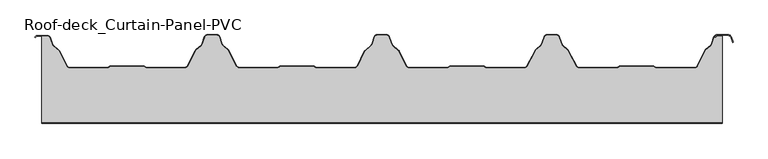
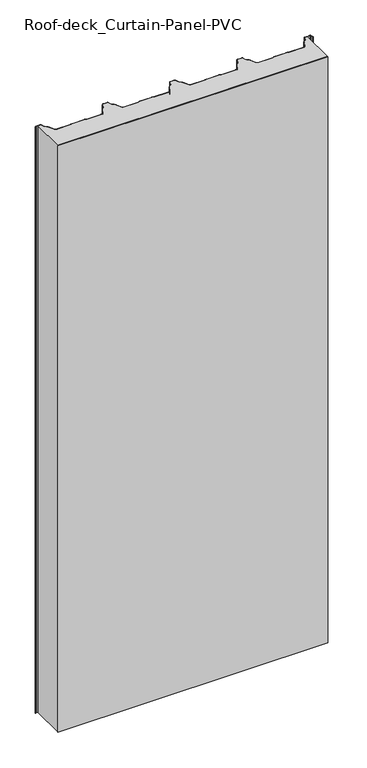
"""IFC4 building model written with IfcOpenShell, lengths in millimetres: plate geometry, Roof-deck_Curtain-Panel-PVC : ACH_Roof deck_MW_80 mm."""

from ifc_helpers import new_model, si_unit, point, frame_2d, origin, origin_with_axes, place, context, project, spatial, polyline, circle_curve, trimmed, segment, composite_curve, outline, extrude, source, transform, mapped, element, save


def roof_deck_curtain_panel_pvc_6be13019(model_context):
    return source(origin(), model_context, "Body", "SweptSolid", [
        extrude(outline(composite_curve([segment(polyline([(-349.0135941, -47.2718753), (-348.3934384, -47.892031)]), True, "CONTINUOUS"), segment(trimmed(circle_curve(frame_2d((-346.2014073, -45.7)), 3.1), [point((-348.3934384, -47.892031))], [point((-346.2014073, -48.8))], True, "CARTESIAN"), True, "CONTINUOUS"), segment(polyline([(-346.2014073, -48.8), (-289.4061861, -48.8)]), True, "CONTINUOUS"), segment(trimmed(circle_curve(frame_2d((-289.4061861, -44.5)), 4.3), [point((-289.4061861, -48.8))], [point((-285.5884085, -46.4785284))], True, "CARTESIAN"), True, "CONTINUOUS"), segment(polyline([(-285.5884085, -46.4785284), (-273.6825876, -23.505001)]), True, "CONTINUOUS"), segment(trimmed(circle_curve(frame_2d((-271.1078074, -24.8393573)), 2.9), [point((-273.6825876, -23.505001))], [point((-273.017236, -22.6566795))], False, "CARTESIAN"), True, "CONTINUOUS"), segment(polyline([(-273.017236, -22.6566795), (-265.2497907, -15.8616403)]), True, "CONTINUOUS"), segment(trimmed(circle_curve(frame_2d((-267.290904, -13.5284329)), 3.1), [point((-265.2497907, -15.8616403))], [point((-264.3739053, -14.5777749))], True, "CARTESIAN"), True, "CONTINUOUS"), segment(polyline([(-264.3739053, -14.5777749), (-260.2266586, -3.0491088)]), True, "CONTINUOUS"), segment(trimmed(circle_curve(frame_2d((-257.0273697, -4.2)), 3.4), [point((-260.2266586, -3.0491088))], [point((-257.0273697, -0.8))], False, "CARTESIAN"), True, "CONTINUOUS"), segment(polyline([(-257.0273697, -0.8), (-242.6920972, -0.8)]), True, "CONTINUOUS"), segment(trimmed(circle_curve(frame_2d((-242.6920972, -4.2)), 3.4), [point((-242.6920972, -0.8))], [point((-239.4928083, -3.0491088))], False, "CARTESIAN"), True, "CONTINUOUS"), segment(polyline([(-239.4928083, -3.0491088), (-235.3455616, -14.5777749)]), True, "CONTINUOUS"), segment(trimmed(circle_curve(frame_2d((-232.4285629, -13.5284329)), 3.1), [point((-235.3455616, -14.5777749))], [point((-234.4696761, -15.8616403))], True, "CARTESIAN"), True, "CONTINUOUS"), segment(polyline([(-234.4696761, -15.8616403), (-226.7022309, -22.6566795)]), True, "CONTINUOUS"), segment(trimmed(circle_curve(frame_2d((-228.6116595, -24.8393573)), 2.9), [point((-226.7022309, -22.6566795))], [point((-226.0368792, -23.505001))], False, "CARTESIAN"), True, "CONTINUOUS"), segment(polyline([(-226.0368792, -23.505001), (-214.1310583, -46.4785284)]), True, "CONTINUOUS"), segment(trimmed(circle_curve(frame_2d((-210.3132808, -44.5)), 4.3), [point((-214.1310583, -46.4785284))], [point((-210.3132808, -48.8))], True, "CARTESIAN"), True, "CONTINUOUS"), segment(polyline([(-210.3132808, -48.8), (-153.5333867, -48.8)]), True, "CONTINUOUS"), segment(trimmed(circle_curve(frame_2d((-153.5333867, -45.7)), 3.1), [point((-153.5333867, -48.8))], [point((-151.3413557, -47.892031))], True, "CARTESIAN"), True, "CONTINUOUS"), segment(polyline([(-151.3413557, -47.892031), (-150.7212, -47.2718753)]), True, "CONTINUOUS"), segment(trimmed(circle_curve(frame_2d((-149.0481053, -50.0020238)), 3.2020238), [point((-150.7212, -47.2718753))], [point((-149.0481053, -46.8))], False, "CARTESIAN"), True, "CONTINUOUS"), segment(polyline([(-149.0481053, -46.8), (-101.2020159, -46.8)]), True, "CONTINUOUS"), segment(trimmed(circle_curve(frame_2d((-101.2020159, -50.0020238)), 3.2020238), [point((-101.2020159, -46.8))], [point((-99.5289212, -47.2718753))], False, "CARTESIAN"), True, "CONTINUOUS"), segment(polyline([(-99.5289212, -47.2718753), (-98.9087655, -47.892031)]), True, "CONTINUOUS"), segment(trimmed(circle_curve(frame_2d((-96.7167345, -45.7)), 3.1), [point((-98.9087655, -47.892031))], [point((-96.7167345, -48.8))], True, "CARTESIAN"), True, "CONTINUOUS"), segment(polyline([(-96.7167345, -48.8), (-39.9215133, -48.8)]), True, "CONTINUOUS"), segment(trimmed(circle_curve(frame_2d((-39.9215133, -44.5)), 4.3), [point((-39.9215133, -48.8))], [point((-36.0707148, -46.4134657))], True, "CARTESIAN"), True, "CONTINUOUS"), segment(polyline([(-36.0707148, -46.4134657), (-25.2060392, -24.5485969)]), True, "CONTINUOUS"), segment(trimmed(circle_curve(frame_2d((-22.6089891, -25.8390738)), 2.9), [point((-25.2060392, -24.5485969))], [point((-24.5354625, -23.6714252))], False, "CARTESIAN"), True, "CONTINUOUS"), segment(polyline([(-24.5354625, -23.6714252), (-15.7323582, -15.8477646)]), True, "CONTINUOUS"), segment(trimmed(circle_curve(frame_2d((-17.7916919, -13.530623)), 3.1), [point((-15.7323582, -15.8477646))], [point((-14.8746932, -14.579965))], True, "CARTESIAN"), True, "CONTINUOUS"), segment(polyline([(-14.8746932, -14.579965), (-10.7266586, -3.0491088)]), True, "CONTINUOUS"), segment(trimmed(circle_curve(frame_2d((-7.5273697, -4.2)), 3.4), [point((-10.7266586, -3.0491088))], [point((-7.5273697, -0.8))], False, "CARTESIAN"), True, "CONTINUOUS"), segment(polyline([(-7.5273697, -0.8), (6.8079028, -0.8)]), True, "CONTINUOUS"), segment(trimmed(circle_curve(frame_2d((6.8079028, -4.2)), 3.4), [point((6.8079028, -0.8))], [point((10.0071917, -3.0491088))], False, "CARTESIAN"), True, "CONTINUOUS"), segment(polyline([(10.0071917, -3.0491088), (14.1552263, -14.579965)]), True, "CONTINUOUS"), segment(trimmed(circle_curve(frame_2d((17.072225, -13.530623)), 3.1), [point((14.1552263, -14.579965))], [point((15.0128913, -15.8477646))], True, "CARTESIAN"), True, "CONTINUOUS"), segment(polyline([(15.0128913, -15.8477646), (23.8159956, -23.6714252)]), True, "CONTINUOUS"), segment(trimmed(circle_curve(frame_2d((21.8895222, -25.8390738)), 2.9), [point((23.8159956, -23.6714252))], [point((24.4865724, -24.5485969))], False, "CARTESIAN"), True, "CONTINUOUS"), segment(polyline([(24.4865724, -24.5485969), (35.3512479, -46.4134657)]), True, "CONTINUOUS"), segment(trimmed(circle_curve(frame_2d((39.2020464, -44.5)), 4.3), [point((35.3512479, -46.4134657))], [point((39.2020464, -48.8))], True, "CARTESIAN"), True, "CONTINUOUS"), segment(polyline([(39.2020464, -48.8), (95.9819404, -48.8)]), True, "CONTINUOUS"), segment(trimmed(circle_curve(frame_2d((95.9819404, -45.7)), 3.1), [point((95.9819404, -48.8))], [point((98.1739715, -47.892031))], True, "CARTESIAN"), True, "CONTINUOUS"), segment(polyline([(98.1739715, -47.892031), (98.7941272, -47.2718753)]), True, "CONTINUOUS"), segment(trimmed(circle_curve(frame_2d((100.4672218, -50.0020238)), 3.2020238), [point((98.7941272, -47.2718753))], [point((100.4672218, -46.8))], False, "CARTESIAN"), True, "CONTINUOUS"), segment(polyline([(100.4672218, -46.8), (148.3133113, -46.8)]), True, "CONTINUOUS"), segment(trimmed(circle_curve(frame_2d((148.3133113, -50.0020238)), 3.2020238), [point((148.3133113, -46.8))], [point((149.9864059, -47.2718753))], False, "CARTESIAN"), True, "CONTINUOUS"), segment(polyline([(149.9864059, -47.2718753), (150.6065616, -47.892031)]), True, "CONTINUOUS"), segment(trimmed(circle_curve(frame_2d((152.7985927, -45.7)), 3.1), [point((150.6065616, -47.892031))], [point((152.7985927, -48.8))], True, "CARTESIAN"), True, "CONTINUOUS"), segment(polyline([(152.7985927, -48.8), (209.5938139, -48.8)]), True, "CONTINUOUS"), segment(trimmed(circle_curve(frame_2d((209.5938139, -44.5)), 4.3), [point((209.5938139, -48.8))], [point((213.4115915, -46.4785284))], True, "CARTESIAN"), True, "CONTINUOUS"), segment(polyline([(213.4115915, -46.4785284), (225.3174124, -23.505001)]), True, "CONTINUOUS"), segment(trimmed(circle_curve(frame_2d((227.8921926, -24.8393573)), 2.9), [point((225.3174124, -23.505001))], [point((225.982764, -22.6566795))], False, "CARTESIAN"), True, "CONTINUOUS"), segment(polyline([(225.982764, -22.6566795), (233.7502093, -15.8616403)]), True, "CONTINUOUS"), segment(trimmed(circle_curve(frame_2d((231.709096, -13.5284329)), 3.1), [point((233.7502093, -15.8616403))], [point((234.6260947, -14.5777749))], True, "CARTESIAN"), True, "CONTINUOUS"), segment(polyline([(234.6260947, -14.5777749), (238.7733414, -3.0491088)]), True, "CONTINUOUS"), segment(trimmed(circle_curve(frame_2d((241.9726303, -4.2)), 3.4), [point((238.7733414, -3.0491088))], [point((241.9726303, -0.8))], False, "CARTESIAN"), True, "CONTINUOUS"), segment(polyline([(241.9726303, -0.8), (256.3079028, -0.8)]), True, "CONTINUOUS"), segment(trimmed(circle_curve(frame_2d((256.3079028, -4.2)), 3.4), [point((256.3079028, -0.8))], [point((259.5071917, -3.0491088))], False, "CARTESIAN"), True, "CONTINUOUS"), segment(polyline([(259.5071917, -3.0491088), (263.6544384, -14.5777749)]), True, "CONTINUOUS"), segment(trimmed(circle_curve(frame_2d((266.5714371, -13.5284329)), 3.1), [point((263.6544384, -14.5777749))], [point((264.5303239, -15.8616403))], True, "CARTESIAN"), True, "CONTINUOUS"), segment(polyline([(264.5303239, -15.8616403), (272.2977691, -22.6566795)]), True, "CONTINUOUS"), segment(trimmed(circle_curve(frame_2d((270.3883405, -24.8393573)), 2.9), [point((272.2977691, -22.6566795))], [point((272.9631208, -23.505001))], False, "CARTESIAN"), True, "CONTINUOUS"), segment(polyline([(272.9631208, -23.505001), (284.8689417, -46.4785284)]), True, "CONTINUOUS"), segment(trimmed(circle_curve(frame_2d((288.6867192, -44.5)), 4.3), [point((284.8689417, -46.4785284))], [point((288.6867192, -48.8))], True, "CARTESIAN"), True, "CONTINUOUS"), segment(polyline([(288.6867192, -48.8), (345.4666133, -48.8)]), True, "CONTINUOUS"), segment(trimmed(circle_curve(frame_2d((345.4666133, -45.7)), 3.1), [point((345.4666133, -48.8))], [point((347.6586443, -47.892031))], True, "CARTESIAN"), True, "CONTINUOUS"), segment(polyline([(347.6586443, -47.892031), (348.2788, -47.2718753)]), True, "CONTINUOUS"), segment(trimmed(circle_curve(frame_2d((349.9518947, -50.0020238)), 3.2020238), [point((348.2788, -47.2718753))], [point((349.9518947, -46.8))], False, "CARTESIAN"), True, "CONTINUOUS"), segment(polyline([(349.9518947, -46.8), (397.7979841, -46.8)]), True, "CONTINUOUS"), segment(trimmed(circle_curve(frame_2d((397.7979841, -50.0020238)), 3.2020238), [point((397.7979841, -46.8))], [point((399.4710788, -47.2718753))], False, "CARTESIAN"), True, "CONTINUOUS"), segment(polyline([(399.4710788, -47.2718753), (400.0912345, -47.892031)]), True, "CONTINUOUS"), segment(trimmed(circle_curve(frame_2d((402.2832655, -45.7)), 3.1), [point((400.0912345, -47.892031))], [point((402.2832655, -48.8))], True, "CARTESIAN"), True, "CONTINUOUS"), segment(polyline([(402.2832655, -48.8), (460.084234, -48.8)]), True, "CONTINUOUS"), segment(trimmed(circle_curve(frame_2d((460.084234, -44.5)), 4.3), [point((460.084234, -48.8))], [point((463.9685573, -46.3444599))], True, "CARTESIAN"), True, "CONTINUOUS"), segment(polyline([(463.9685573, -46.3444599), (474.7696963, -23.5979005)]), True, "CONTINUOUS"), segment(trimmed(circle_curve(frame_2d((477.3893563, -24.8418385)), 2.9), [point((474.7696963, -23.5979005))], [point((475.4799277, -22.6591607))], False, "CARTESIAN"), True, "CONTINUOUS"), segment(polyline([(475.4799277, -22.6591607), (483.2502093, -15.8616403)]), True, "CONTINUOUS"), segment(trimmed(circle_curve(frame_2d((481.209096, -13.5284329)), 3.1), [point((483.2502093, -15.8616403))], [point((484.1260947, -14.5777749))], True, "CARTESIAN"), True, "CONTINUOUS"), segment(polyline([(484.1260947, -14.5777749), (488.2177168, -3.2037362), (490.5677139, -4.0491088)]), True, "CONTINUOUS"), segment(trimmed(circle_curve(frame_2d((493.7670027, -5.2)), 3.4), [point((490.5677139, -4.0491088))], [point((493.7670027, -1.8))], False, "CARTESIAN"), True, "CONTINUOUS"), segment(polyline([(493.7670027, -1.8), (500.0, -1.8), (500.0, -128.8), (-500.0, -128.8), (-500.0, -1.8), (-491.8323638, -1.8)]), True, "CONTINUOUS"), segment(trimmed(circle_curve(frame_2d((-491.8323638, -5.2)), 3.4), [point((-491.8323638, -1.8))], [point((-488.6330749, -4.0491088))], False, "CARTESIAN"), True, "CONTINUOUS"), segment(polyline([(-488.6330749, -4.0491088), (-484.8455616, -14.5777749)]), True, "CONTINUOUS"), segment(trimmed(circle_curve(frame_2d((-481.9285629, -13.5284329)), 3.1), [point((-484.8455616, -14.5777749))], [point((-483.9696761, -15.8616403))], True, "CARTESIAN"), True, "CONTINUOUS"), segment(polyline([(-483.9696761, -15.8616403), (-475.3099327, -23.4372709)]), True, "CONTINUOUS"), segment(trimmed(circle_curve(frame_2d((-477.2193612, -25.6199488)), 2.9), [point((-475.3099327, -23.4372709))], [point((-474.6223111, -24.3294719))], False, "CARTESIAN"), True, "CONTINUOUS"), segment(polyline([(-474.6223111, -24.3294719), (-463.6487521, -46.4134657)]), True, "CONTINUOUS"), segment(trimmed(circle_curve(frame_2d((-459.7979536, -44.5)), 4.3), [point((-463.6487521, -46.4134657))], [point((-459.7979536, -48.8))], True, "CARTESIAN"), True, "CONTINUOUS"), segment(polyline([(-459.7979536, -48.8), (-403.0180596, -48.8)]), True, "CONTINUOUS"), segment(trimmed(circle_curve(frame_2d((-403.0180596, -45.7)), 3.1), [point((-403.0180596, -48.8))], [point((-400.8260285, -47.892031))], True, "CARTESIAN"), True, "CONTINUOUS"), segment(polyline([(-400.8260285, -47.892031), (-400.2058728, -47.2718753)]), True, "CONTINUOUS"), segment(trimmed(circle_curve(frame_2d((-398.5327782, -50.0020238)), 3.2020238), [point((-400.2058728, -47.2718753))], [point((-398.5327782, -46.8))], False, "CARTESIAN"), True, "CONTINUOUS"), segment(polyline([(-398.5327782, -46.8), (-350.6866887, -46.8)]), True, "CONTINUOUS"), segment(trimmed(circle_curve(frame_2d((-350.6866887, -50.0020238)), 3.2020238), [point((-350.6866887, -46.8))], [point((-349.0135941, -47.2718753))], False, "CARTESIAN"), True, "CONTINUOUS")], self_intersect=False)), origin_with_axes(), (0.0, 0.0, 1.0), 2300.0),
        extrude(outline(composite_curve([segment(polyline([(-506.1676362, -1.0), (-491.8323638, -1.0)]), True, "CONTINUOUS"), segment(trimmed(circle_curve(frame_2d((-491.8323638, -5.2)), 4.2), [point((-491.8323638, -1.0))], [point((-487.880301, -3.7783109))], False, "CARTESIAN"), True, "CONTINUOUS"), segment(polyline([(-487.880301, -3.7783109), (-484.0927877, -14.3069769)]), True, "CONTINUOUS"), segment(trimmed(circle_curve(frame_2d((-481.9285629, -13.5284329)), 2.3), [point((-484.0927877, -14.3069769))], [point((-483.4429372, -15.2595222))], True, "CARTESIAN"), True, "CONTINUOUS"), segment(polyline([(-483.4429372, -15.2595222), (-474.7831938, -22.8351529)]), True, "CONTINUOUS"), segment(trimmed(circle_curve(frame_2d((-477.2193612, -25.6199488)), 3.7), [point((-474.7831938, -22.8351529))], [point((-473.9058834, -23.9734783))], False, "CARTESIAN"), True, "CONTINUOUS"), segment(polyline([(-473.9058834, -23.9734783), (-462.9323245, -46.0574721)]), True, "CONTINUOUS"), segment(trimmed(circle_curve(frame_2d((-459.7979536, -44.5)), 3.5), [point((-462.9323245, -46.0574721))], [point((-459.7979536, -48.0))], True, "CARTESIAN"), True, "CONTINUOUS"), segment(polyline([(-459.7979536, -48.0), (-403.0180596, -48.0)]), True, "CONTINUOUS"), segment(trimmed(circle_curve(frame_2d((-403.0180596, -45.7)), 2.3), [point((-403.0180596, -48.0))], [point((-401.391714, -47.3263456))], True, "CARTESIAN"), True, "CONTINUOUS"), segment(polyline([(-401.391714, -47.3263456), (-400.7083848, -46.6430165)]), True, "CONTINUOUS"), segment(trimmed(circle_curve(frame_2d((-398.5327782, -50.0020238)), 4.0020238), [point((-400.7083848, -46.6430165))], [point((-398.5327782, -46.0))], False, "CARTESIAN"), True, "CONTINUOUS"), segment(polyline([(-398.5327782, -46.0), (-350.6866887, -46.0)]), True, "CONTINUOUS"), segment(trimmed(circle_curve(frame_2d((-350.6866887, -50.0020238)), 4.0020238), [point((-350.6866887, -46.0))], [point((-348.511082, -46.6430165))], False, "CARTESIAN"), True, "CONTINUOUS"), segment(polyline([(-348.511082, -46.6430165), (-347.8277529, -47.3263456)]), True, "CONTINUOUS"), segment(trimmed(circle_curve(frame_2d((-346.2014073, -45.7)), 2.3), [point((-347.8277529, -47.3263456))], [point((-346.2014073, -48.0))], True, "CARTESIAN"), True, "CONTINUOUS"), segment(polyline([(-346.2014073, -48.0), (-289.4061861, -48.0)]), True, "CONTINUOUS"), segment(trimmed(circle_curve(frame_2d((-289.4061861, -44.5)), 3.5), [point((-289.4061861, -48.0))], [point((-286.2986927, -46.1104301))], True, "CARTESIAN"), True, "CONTINUOUS"), segment(polyline([(-286.2986927, -46.1104301), (-274.3928718, -23.1369027)]), True, "CONTINUOUS"), segment(trimmed(circle_curve(frame_2d((-271.1078074, -24.8393573)), 3.7), [point((-274.3928718, -23.1369027))], [point((-273.5439749, -22.0545614))], False, "CARTESIAN"), True, "CONTINUOUS"), segment(polyline([(-273.5439749, -22.0545614), (-265.7765297, -15.2595222)]), True, "CONTINUOUS"), segment(trimmed(circle_curve(frame_2d((-267.290904, -13.5284329)), 2.3), [point((-265.7765297, -15.2595222))], [point((-265.1266792, -14.3069769))], True, "CARTESIAN"), True, "CONTINUOUS"), segment(polyline([(-265.1266792, -14.3069769), (-260.9794324, -2.7783109)]), True, "CONTINUOUS"), segment(trimmed(circle_curve(frame_2d((-257.0273697, -4.2)), 4.2), [point((-260.9794324, -2.7783109))], [point((-257.0273697, 0.0))], False, "CARTESIAN"), True, "CONTINUOUS"), segment(polyline([(-257.0273697, 0.0), (-242.6920972, 0.0)]), True, "CONTINUOUS"), segment(trimmed(circle_curve(frame_2d((-242.6920972, -4.2)), 4.2), [point((-242.6920972, 0.0))], [point((-238.7400345, -2.7783109))], False, "CARTESIAN"), True, "CONTINUOUS"), segment(polyline([(-238.7400345, -2.7783109), (-234.5927877, -14.3069769)]), True, "CONTINUOUS"), segment(trimmed(circle_curve(frame_2d((-232.4285629, -13.5284329)), 2.3), [point((-234.5927877, -14.3069769))], [point((-233.9429372, -15.2595222))], True, "CARTESIAN"), True, "CONTINUOUS"), segment(polyline([(-233.9429372, -15.2595222), (-226.175492, -22.0545614)]), True, "CONTINUOUS"), segment(trimmed(circle_curve(frame_2d((-228.6116595, -24.8393573)), 3.7), [point((-226.175492, -22.0545614))], [point((-225.326595, -23.1369027))], False, "CARTESIAN"), True, "CONTINUOUS"), segment(polyline([(-225.326595, -23.1369027), (-213.4207742, -46.1104301)]), True, "CONTINUOUS"), segment(trimmed(circle_curve(frame_2d((-210.3132808, -44.5)), 3.5), [point((-213.4207742, -46.1104301))], [point((-210.3132808, -48.0))], True, "CARTESIAN"), True, "CONTINUOUS"), segment(polyline([(-210.3132808, -48.0), (-153.5333867, -48.0)]), True, "CONTINUOUS"), segment(trimmed(circle_curve(frame_2d((-153.5333867, -45.7)), 2.3), [point((-153.5333867, -48.0))], [point((-151.9070411, -47.3263456))], True, "CARTESIAN"), True, "CONTINUOUS"), segment(polyline([(-151.9070411, -47.3263456), (-151.223712, -46.6430165)]), True, "CONTINUOUS"), segment(trimmed(circle_curve(frame_2d((-149.0481053, -50.0020238)), 4.0020238), [point((-151.223712, -46.6430165))], [point((-149.0481053, -46.0))], False, "CARTESIAN"), True, "CONTINUOUS"), segment(polyline([(-149.0481053, -46.0), (-101.2020159, -46.0)]), True, "CONTINUOUS"), segment(trimmed(circle_curve(frame_2d((-101.2020159, -50.0020238)), 4.0020238), [point((-101.2020159, -46.0))], [point((-99.0264092, -46.6430165))], False, "CARTESIAN"), True, "CONTINUOUS"), segment(polyline([(-99.0264092, -46.6430165), (-98.3430801, -47.3263456)]), True, "CONTINUOUS"), segment(trimmed(circle_curve(frame_2d((-96.7167345, -45.7)), 2.3), [point((-98.3430801, -47.3263456))], [point((-96.7167345, -48.0))], True, "CARTESIAN"), True, "CONTINUOUS"), segment(polyline([(-96.7167345, -48.0), (-39.9215133, -48.0)]), True, "CONTINUOUS"), segment(trimmed(circle_curve(frame_2d((-39.9215133, -44.5)), 3.5), [point((-39.9215133, -48.0))], [point((-36.7871424, -46.0574721))], True, "CARTESIAN"), True, "CONTINUOUS"), segment(polyline([(-36.7871424, -46.0574721), (-25.9224669, -24.1926033)]), True, "CONTINUOUS"), segment(trimmed(circle_curve(frame_2d((-22.6089891, -25.8390738)), 3.7), [point((-25.9224669, -24.1926033))], [point((-25.0669035, -23.0734532))], False, "CARTESIAN"), True, "CONTINUOUS"), segment(polyline([(-25.0669035, -23.0734532), (-16.2637992, -15.2497926)]), True, "CONTINUOUS"), segment(trimmed(circle_curve(frame_2d((-17.7916919, -13.530623)), 2.3), [point((-16.2637992, -15.2497926))], [point((-15.627467, -14.3091671))], True, "CARTESIAN"), True, "CONTINUOUS"), segment(polyline([(-15.627467, -14.3091671), (-11.4794324, -2.7783109)]), True, "CONTINUOUS"), segment(trimmed(circle_curve(frame_2d((-7.5273697, -4.2)), 4.2), [point((-11.4794324, -2.7783109))], [point((-7.5273697, 0.0))], False, "CARTESIAN"), True, "CONTINUOUS"), segment(polyline([(-7.5273697, 0.0), (6.8079028, 0.0)]), True, "CONTINUOUS"), segment(trimmed(circle_curve(frame_2d((6.8079028, -4.2)), 4.2), [point((6.8079028, 0.0))], [point((10.7599655, -2.7783109))], False, "CARTESIAN"), True, "CONTINUOUS"), segment(polyline([(10.7599655, -2.7783109), (14.9080002, -14.3091671)]), True, "CONTINUOUS"), segment(trimmed(circle_curve(frame_2d((17.072225, -13.530623)), 2.3), [point((14.9080002, -14.3091671))], [point((15.5443323, -15.2497926))], True, "CARTESIAN"), True, "CONTINUOUS"), segment(polyline([(15.5443323, -15.2497926), (24.3474366, -23.0734532)]), True, "CONTINUOUS"), segment(trimmed(circle_curve(frame_2d((21.8895222, -25.8390738)), 3.7), [point((24.3474366, -23.0734532))], [point((25.203, -24.1926033))], False, "CARTESIAN"), True, "CONTINUOUS"), segment(polyline([(25.203, -24.1926033), (36.0676755, -46.0574721)]), True, "CONTINUOUS"), segment(trimmed(circle_curve(frame_2d((39.2020464, -44.5)), 3.5), [point((36.0676755, -46.0574721))], [point((39.2020464, -48.0))], True, "CARTESIAN"), True, "CONTINUOUS"), segment(polyline([(39.2020464, -48.0), (95.9819404, -48.0)]), True, "CONTINUOUS"), segment(trimmed(circle_curve(frame_2d((95.9819404, -45.7)), 2.3), [point((95.9819404, -48.0))], [point((97.608286, -47.3263456))], True, "CARTESIAN"), True, "CONTINUOUS"), segment(polyline([(97.608286, -47.3263456), (98.2916152, -46.6430165)]), True, "CONTINUOUS"), segment(trimmed(circle_curve(frame_2d((100.4672218, -50.0020238)), 4.0020238), [point((98.2916152, -46.6430165))], [point((100.4672218, -46.0))], False, "CARTESIAN"), True, "CONTINUOUS"), segment(polyline([(100.4672218, -46.0), (148.3133113, -46.0)]), True, "CONTINUOUS"), segment(trimmed(circle_curve(frame_2d((148.3133113, -50.0020238)), 4.0020238), [point((148.3133113, -46.0))], [point((150.488918, -46.6430165))], False, "CARTESIAN"), True, "CONTINUOUS"), segment(polyline([(150.488918, -46.6430165), (151.1722471, -47.3263456)]), True, "CONTINUOUS"), segment(trimmed(circle_curve(frame_2d((152.7985927, -45.7)), 2.3), [point((151.1722471, -47.3263456))], [point((152.7985927, -48.0))], True, "CARTESIAN"), True, "CONTINUOUS"), segment(polyline([(152.7985927, -48.0), (209.5938139, -48.0)]), True, "CONTINUOUS"), segment(trimmed(circle_curve(frame_2d((209.5938139, -44.5)), 3.5), [point((209.5938139, -48.0))], [point((212.7013073, -46.1104301))], True, "CARTESIAN"), True, "CONTINUOUS"), segment(polyline([(212.7013073, -46.1104301), (224.6071282, -23.1369027)]), True, "CONTINUOUS"), segment(trimmed(circle_curve(frame_2d((227.8921926, -24.8393573)), 3.7), [point((224.6071282, -23.1369027))], [point((225.4560251, -22.0545614))], False, "CARTESIAN"), True, "CONTINUOUS"), segment(polyline([(225.4560251, -22.0545614), (233.2234703, -15.2595222)]), True, "CONTINUOUS"), segment(trimmed(circle_curve(frame_2d((231.709096, -13.5284329)), 2.3), [point((233.2234703, -15.2595222))], [point((233.8733208, -14.3069769))], True, "CARTESIAN"), True, "CONTINUOUS"), segment(polyline([(233.8733208, -14.3069769), (238.0205676, -2.7783109)]), True, "CONTINUOUS"), segment(trimmed(circle_curve(frame_2d((241.9726303, -4.2)), 4.2), [point((238.0205676, -2.7783109))], [point((241.9726303, 0.0))], False, "CARTESIAN"), True, "CONTINUOUS"), segment(polyline([(241.9726303, 0.0), (256.3079028, 0.0)]), True, "CONTINUOUS"), segment(trimmed(circle_curve(frame_2d((256.3079028, -4.2)), 4.2), [point((256.3079028, 0.0))], [point((260.2599655, -2.7783109))], False, "CARTESIAN"), True, "CONTINUOUS"), segment(polyline([(260.2599655, -2.7783109), (264.4072123, -14.3069769)]), True, "CONTINUOUS"), segment(trimmed(circle_curve(frame_2d((266.5714371, -13.5284329)), 2.3), [point((264.4072123, -14.3069769))], [point((265.0570628, -15.2595222))], True, "CARTESIAN"), True, "CONTINUOUS"), segment(polyline([(265.0570628, -15.2595222), (272.824508, -22.0545614)]), True, "CONTINUOUS"), segment(trimmed(circle_curve(frame_2d((270.3883405, -24.8393573)), 3.7), [point((272.824508, -22.0545614))], [point((273.673405, -23.1369027))], False, "CARTESIAN"), True, "CONTINUOUS"), segment(polyline([(273.673405, -23.1369027), (285.5792258, -46.1104301)]), True, "CONTINUOUS"), segment(trimmed(circle_curve(frame_2d((288.6867192, -44.5)), 3.5), [point((285.5792258, -46.1104301))], [point((288.6867192, -48.0))], True, "CARTESIAN"), True, "CONTINUOUS"), segment(polyline([(288.6867192, -48.0), (345.4666133, -48.0)]), True, "CONTINUOUS"), segment(trimmed(circle_curve(frame_2d((345.4666133, -45.7)), 2.3), [point((345.4666133, -48.0))], [point((347.0929589, -47.3263456))], True, "CARTESIAN"), True, "CONTINUOUS"), segment(polyline([(347.0929589, -47.3263456), (347.776288, -46.6430165)]), True, "CONTINUOUS"), segment(trimmed(circle_curve(frame_2d((349.9518947, -50.0020238)), 4.0020238), [point((347.776288, -46.6430165))], [point((349.9518947, -46.0))], False, "CARTESIAN"), True, "CONTINUOUS"), segment(polyline([(349.9518947, -46.0), (397.7979841, -46.0)]), True, "CONTINUOUS"), segment(trimmed(circle_curve(frame_2d((397.7979841, -50.0020238)), 4.0020238), [point((397.7979841, -46.0))], [point((399.9735908, -46.6430165))], False, "CARTESIAN"), True, "CONTINUOUS"), segment(polyline([(399.9735908, -46.6430165), (400.6569199, -47.3263456)]), True, "CONTINUOUS"), segment(trimmed(circle_curve(frame_2d((402.2832655, -45.7)), 2.3), [point((400.6569199, -47.3263456))], [point((402.2832655, -48.0))], True, "CARTESIAN"), True, "CONTINUOUS"), segment(polyline([(402.2832655, -48.0), (460.084234, -48.0)]), True, "CONTINUOUS"), segment(trimmed(circle_curve(frame_2d((460.084234, -44.5)), 3.5), [point((460.084234, -48.0))], [point((463.2458925, -46.0013046))], True, "CARTESIAN"), True, "CONTINUOUS"), segment(polyline([(463.2458925, -46.0013046), (474.0470315, -23.2547451)]), True, "CONTINUOUS"), segment(trimmed(circle_curve(frame_2d((477.3893563, -24.8418385)), 3.7), [point((474.0470315, -23.2547451))], [point((474.9531888, -22.0570426))], False, "CARTESIAN"), True, "CONTINUOUS"), segment(polyline([(474.9531888, -22.0570426), (482.7234703, -15.2595222)]), True, "CONTINUOUS"), segment(trimmed(circle_curve(frame_2d((481.209096, -13.5284329)), 2.3), [point((482.7234703, -15.2595222))], [point((483.3733208, -14.3069769))], True, "CARTESIAN"), True, "CONTINUOUS"), segment(polyline([(483.3733208, -14.3069769), (487.5205676, -2.7783109)]), True, "CONTINUOUS"), segment(trimmed(circle_curve(frame_2d((491.4726303, -4.2)), 4.2), [point((487.5205676, -2.7783109))], [point((491.4726303, 0.0))], False, "CARTESIAN"), True, "CONTINUOUS"), segment(polyline([(491.4726303, 0.0), (508.6580917, 0.0)]), True, "CONTINUOUS"), segment(trimmed(circle_curve(frame_2d((508.6580917, -4.2)), 4.2), [point((508.6580917, 0.0))], [point((512.6101545, -2.7783109))], False, "CARTESIAN"), True, "CONTINUOUS"), segment(polyline([(512.6101545, -2.7783109), (515.5925551, -11.0688956), (514.8397812, -11.3396935), (511.8573806, -3.0491088)]), True, "CONTINUOUS"), segment(trimmed(circle_curve(frame_2d((508.6580917, -4.2)), 3.4), [point((511.8573806, -3.0491088))], [point((508.6580917, -0.8))], True, "CARTESIAN"), True, "CONTINUOUS"), segment(polyline([(508.6580917, -0.8), (491.4726303, -0.8)]), True, "CONTINUOUS"), segment(trimmed(circle_curve(frame_2d((491.4726303, -4.2)), 3.4), [point((491.4726303, -0.8))], [point((488.2733414, -3.0491088))], True, "CARTESIAN"), True, "CONTINUOUS"), segment(polyline([(488.2733414, -3.0491088), (484.1260947, -14.5777749)]), True, "CONTINUOUS"), segment(trimmed(circle_curve(frame_2d((481.209096, -13.5284329)), 3.1), [point((484.1260947, -14.5777749))], [point((483.2502093, -15.8616403))], False, "CARTESIAN"), True, "CONTINUOUS"), segment(polyline([(483.2502093, -15.8616403), (475.4799277, -22.6591607)]), True, "CONTINUOUS"), segment(trimmed(circle_curve(frame_2d((477.3893563, -24.8418385)), 2.9), [point((475.4799277, -22.6591607))], [point((474.7696963, -23.5979005))], True, "CARTESIAN"), True, "CONTINUOUS"), segment(polyline([(474.7696963, -23.5979005), (463.9685573, -46.3444599)]), True, "CONTINUOUS"), segment(trimmed(circle_curve(frame_2d((460.084234, -44.5)), 4.3), [point((463.9685573, -46.3444599))], [point((460.084234, -48.8))], False, "CARTESIAN"), True, "CONTINUOUS"), segment(polyline([(460.084234, -48.8), (402.2832655, -48.8)]), True, "CONTINUOUS"), segment(trimmed(circle_curve(frame_2d((402.2832655, -45.7)), 3.1), [point((402.2832655, -48.8))], [point((400.0912345, -47.892031))], False, "CARTESIAN"), True, "CONTINUOUS"), segment(polyline([(400.0912345, -47.892031), (399.4710788, -47.2718753)]), True, "CONTINUOUS"), segment(trimmed(circle_curve(frame_2d((397.7979841, -50.0020238)), 3.2020238), [point((399.4710788, -47.2718753))], [point((397.7979841, -46.8))], True, "CARTESIAN"), True, "CONTINUOUS"), segment(polyline([(397.7979841, -46.8), (349.9518947, -46.8)]), True, "CONTINUOUS"), segment(trimmed(circle_curve(frame_2d((349.9518947, -50.0020238)), 3.2020238), [point((349.9518947, -46.8))], [point((348.2788, -47.2718753))], True, "CARTESIAN"), True, "CONTINUOUS"), segment(polyline([(348.2788, -47.2718753), (347.6586443, -47.892031)]), True, "CONTINUOUS"), segment(trimmed(circle_curve(frame_2d((345.4666133, -45.7)), 3.1), [point((347.6586443, -47.892031))], [point((345.4666133, -48.8))], False, "CARTESIAN"), True, "CONTINUOUS"), segment(polyline([(345.4666133, -48.8), (288.6867192, -48.8)]), True, "CONTINUOUS"), segment(trimmed(circle_curve(frame_2d((288.6867192, -44.5)), 4.3), [point((288.6867192, -48.8))], [point((284.8689417, -46.4785284))], False, "CARTESIAN"), True, "CONTINUOUS"), segment(polyline([(284.8689417, -46.4785284), (272.9631208, -23.505001)]), True, "CONTINUOUS"), segment(trimmed(circle_curve(frame_2d((270.3883405, -24.8393573)), 2.9), [point((272.9631208, -23.505001))], [point((272.2977691, -22.6566795))], True, "CARTESIAN"), True, "CONTINUOUS"), segment(polyline([(272.2977691, -22.6566795), (264.5303239, -15.8616403)]), True, "CONTINUOUS"), segment(trimmed(circle_curve(frame_2d((266.5714371, -13.5284329)), 3.1), [point((264.5303239, -15.8616403))], [point((263.6544384, -14.5777749))], False, "CARTESIAN"), True, "CONTINUOUS"), segment(polyline([(263.6544384, -14.5777749), (259.5071917, -3.0491088)]), True, "CONTINUOUS"), segment(trimmed(circle_curve(frame_2d((256.3079028, -4.2)), 3.4), [point((259.5071917, -3.0491088))], [point((256.3079028, -0.8))], True, "CARTESIAN"), True, "CONTINUOUS"), segment(polyline([(256.3079028, -0.8), (241.9726303, -0.8)]), True, "CONTINUOUS"), segment(trimmed(circle_curve(frame_2d((241.9726303, -4.2)), 3.4), [point((241.9726303, -0.8))], [point((238.7733414, -3.0491088))], True, "CARTESIAN"), True, "CONTINUOUS"), segment(polyline([(238.7733414, -3.0491088), (234.6260947, -14.5777749)]), True, "CONTINUOUS"), segment(trimmed(circle_curve(frame_2d((231.709096, -13.5284329)), 3.1), [point((234.6260947, -14.5777749))], [point((233.7502093, -15.8616403))], False, "CARTESIAN"), True, "CONTINUOUS"), segment(polyline([(233.7502093, -15.8616403), (225.982764, -22.6566795)]), True, "CONTINUOUS"), segment(trimmed(circle_curve(frame_2d((227.8921926, -24.8393573)), 2.9), [point((225.982764, -22.6566795))], [point((225.3174124, -23.505001))], True, "CARTESIAN"), True, "CONTINUOUS"), segment(polyline([(225.3174124, -23.505001), (213.4115915, -46.4785284)]), True, "CONTINUOUS"), segment(trimmed(circle_curve(frame_2d((209.5938139, -44.5)), 4.3), [point((213.4115915, -46.4785284))], [point((209.5938139, -48.8))], False, "CARTESIAN"), True, "CONTINUOUS"), segment(polyline([(209.5938139, -48.8), (152.7985927, -48.8)]), True, "CONTINUOUS"), segment(trimmed(circle_curve(frame_2d((152.7985927, -45.7)), 3.1), [point((152.7985927, -48.8))], [point((150.6065616, -47.892031))], False, "CARTESIAN"), True, "CONTINUOUS"), segment(polyline([(150.6065616, -47.892031), (149.9864059, -47.2718753)]), True, "CONTINUOUS"), segment(trimmed(circle_curve(frame_2d((148.3133113, -50.0020238)), 3.2020238), [point((149.9864059, -47.2718753))], [point((148.3133113, -46.8))], True, "CARTESIAN"), True, "CONTINUOUS"), segment(polyline([(148.3133113, -46.8), (100.4672218, -46.8)]), True, "CONTINUOUS"), segment(trimmed(circle_curve(frame_2d((100.4672218, -50.0020238)), 3.2020238), [point((100.4672218, -46.8))], [point((98.7941272, -47.2718753))], True, "CARTESIAN"), True, "CONTINUOUS"), segment(polyline([(98.7941272, -47.2718753), (98.1739715, -47.892031)]), True, "CONTINUOUS"), segment(trimmed(circle_curve(frame_2d((95.9819404, -45.7)), 3.1), [point((98.1739715, -47.892031))], [point((95.9819404, -48.8))], False, "CARTESIAN"), True, "CONTINUOUS"), segment(polyline([(95.9819404, -48.8), (39.2020464, -48.8)]), True, "CONTINUOUS"), segment(trimmed(circle_curve(frame_2d((39.2020464, -44.5)), 4.3), [point((39.2020464, -48.8))], [point((35.3512479, -46.4134657))], False, "CARTESIAN"), True, "CONTINUOUS"), segment(polyline([(35.3512479, -46.4134657), (24.4865724, -24.5485969)]), True, "CONTINUOUS"), segment(trimmed(circle_curve(frame_2d((21.8895222, -25.8390738)), 2.9), [point((24.4865724, -24.5485969))], [point((23.8159956, -23.6714252))], True, "CARTESIAN"), True, "CONTINUOUS"), segment(polyline([(23.8159956, -23.6714252), (15.0128913, -15.8477646)]), True, "CONTINUOUS"), segment(trimmed(circle_curve(frame_2d((17.072225, -13.530623)), 3.1), [point((15.0128913, -15.8477646))], [point((14.1552263, -14.579965))], False, "CARTESIAN"), True, "CONTINUOUS"), segment(polyline([(14.1552263, -14.579965), (10.0071917, -3.0491088)]), True, "CONTINUOUS"), segment(trimmed(circle_curve(frame_2d((6.8079028, -4.2)), 3.4), [point((10.0071917, -3.0491088))], [point((6.8079028, -0.8))], True, "CARTESIAN"), True, "CONTINUOUS"), segment(polyline([(6.8079028, -0.8), (-7.5273697, -0.8)]), True, "CONTINUOUS"), segment(trimmed(circle_curve(frame_2d((-7.5273697, -4.2)), 3.4), [point((-7.5273697, -0.8))], [point((-10.7266586, -3.0491088))], True, "CARTESIAN"), True, "CONTINUOUS"), segment(polyline([(-10.7266586, -3.0491088), (-14.8746932, -14.579965)]), True, "CONTINUOUS"), segment(trimmed(circle_curve(frame_2d((-17.7916919, -13.530623)), 3.1), [point((-14.8746932, -14.579965))], [point((-15.7323582, -15.8477646))], False, "CARTESIAN"), True, "CONTINUOUS"), segment(polyline([(-15.7323582, -15.8477646), (-24.5354625, -23.6714252)]), True, "CONTINUOUS"), segment(trimmed(circle_curve(frame_2d((-22.6089891, -25.8390738)), 2.9), [point((-24.5354625, -23.6714252))], [point((-25.2060392, -24.5485969))], True, "CARTESIAN"), True, "CONTINUOUS"), segment(polyline([(-25.2060392, -24.5485969), (-36.0707148, -46.4134657)]), True, "CONTINUOUS"), segment(trimmed(circle_curve(frame_2d((-39.9215133, -44.5)), 4.3), [point((-36.0707148, -46.4134657))], [point((-39.9215133, -48.8))], False, "CARTESIAN"), True, "CONTINUOUS"), segment(polyline([(-39.9215133, -48.8), (-96.7167345, -48.8)]), True, "CONTINUOUS"), segment(trimmed(circle_curve(frame_2d((-96.7167345, -45.7)), 3.1), [point((-96.7167345, -48.8))], [point((-98.9087655, -47.892031))], False, "CARTESIAN"), True, "CONTINUOUS"), segment(polyline([(-98.9087655, -47.892031), (-99.5289212, -47.2718753)]), True, "CONTINUOUS"), segment(trimmed(circle_curve(frame_2d((-101.2020159, -50.0020238)), 3.2020238), [point((-99.5289212, -47.2718753))], [point((-101.2020159, -46.8))], True, "CARTESIAN"), True, "CONTINUOUS"), segment(polyline([(-101.2020159, -46.8), (-149.0481053, -46.8)]), True, "CONTINUOUS"), segment(trimmed(circle_curve(frame_2d((-149.0481053, -50.0020238)), 3.2020238), [point((-149.0481053, -46.8))], [point((-150.7212, -47.2718753))], True, "CARTESIAN"), True, "CONTINUOUS"), segment(polyline([(-150.7212, -47.2718753), (-151.3413557, -47.892031)]), True, "CONTINUOUS"), segment(trimmed(circle_curve(frame_2d((-153.5333867, -45.7)), 3.1), [point((-151.3413557, -47.892031))], [point((-153.5333867, -48.8))], False, "CARTESIAN"), True, "CONTINUOUS"), segment(polyline([(-153.5333867, -48.8), (-210.3132808, -48.8)]), True, "CONTINUOUS"), segment(trimmed(circle_curve(frame_2d((-210.3132808, -44.5)), 4.3), [point((-210.3132808, -48.8))], [point((-214.1310583, -46.4785284))], False, "CARTESIAN"), True, "CONTINUOUS"), segment(polyline([(-214.1310583, -46.4785284), (-226.0368792, -23.505001)]), True, "CONTINUOUS"), segment(trimmed(circle_curve(frame_2d((-228.6116595, -24.8393573)), 2.9), [point((-226.0368792, -23.505001))], [point((-226.7022309, -22.6566795))], True, "CARTESIAN"), True, "CONTINUOUS"), segment(polyline([(-226.7022309, -22.6566795), (-234.4696761, -15.8616403)]), True, "CONTINUOUS"), segment(trimmed(circle_curve(frame_2d((-232.4285629, -13.5284329)), 3.1), [point((-234.4696761, -15.8616403))], [point((-235.3455616, -14.5777749))], False, "CARTESIAN"), True, "CONTINUOUS"), segment(polyline([(-235.3455616, -14.5777749), (-239.4928083, -3.0491088)]), True, "CONTINUOUS"), segment(trimmed(circle_curve(frame_2d((-242.6920972, -4.2)), 3.4), [point((-239.4928083, -3.0491088))], [point((-242.6920972, -0.8))], True, "CARTESIAN"), True, "CONTINUOUS"), segment(polyline([(-242.6920972, -0.8), (-257.0273697, -0.8)]), True, "CONTINUOUS"), segment(trimmed(circle_curve(frame_2d((-257.0273697, -4.2)), 3.4), [point((-257.0273697, -0.8))], [point((-260.2266586, -3.0491088))], True, "CARTESIAN"), True, "CONTINUOUS"), segment(polyline([(-260.2266586, -3.0491088), (-264.3739053, -14.5777749)]), True, "CONTINUOUS"), segment(trimmed(circle_curve(frame_2d((-267.290904, -13.5284329)), 3.1), [point((-264.3739053, -14.5777749))], [point((-265.2497907, -15.8616403))], False, "CARTESIAN"), True, "CONTINUOUS"), segment(polyline([(-265.2497907, -15.8616403), (-273.017236, -22.6566795)]), True, "CONTINUOUS"), segment(trimmed(circle_curve(frame_2d((-271.1078074, -24.8393573)), 2.9), [point((-273.017236, -22.6566795))], [point((-273.6825876, -23.505001))], True, "CARTESIAN"), True, "CONTINUOUS"), segment(polyline([(-273.6825876, -23.505001), (-285.5884085, -46.4785284)]), True, "CONTINUOUS"), segment(trimmed(circle_curve(frame_2d((-289.4061861, -44.5)), 4.3), [point((-285.5884085, -46.4785284))], [point((-289.4061861, -48.8))], False, "CARTESIAN"), True, "CONTINUOUS"), segment(polyline([(-289.4061861, -48.8), (-346.2014073, -48.8)]), True, "CONTINUOUS"), segment(trimmed(circle_curve(frame_2d((-346.2014073, -45.7)), 3.1), [point((-346.2014073, -48.8))], [point((-348.3934384, -47.892031))], False, "CARTESIAN"), True, "CONTINUOUS"), segment(polyline([(-348.3934384, -47.892031), (-349.0135941, -47.2718753)]), True, "CONTINUOUS"), segment(trimmed(circle_curve(frame_2d((-350.6866887, -50.0020238)), 3.2020238), [point((-349.0135941, -47.2718753))], [point((-350.6866887, -46.8))], True, "CARTESIAN"), True, "CONTINUOUS"), segment(polyline([(-350.6866887, -46.8), (-398.5327782, -46.8)]), True, "CONTINUOUS"), segment(trimmed(circle_curve(frame_2d((-398.5327782, -50.0020238)), 3.2020238), [point((-398.5327782, -46.8))], [point((-400.2058728, -47.2718753))], True, "CARTESIAN"), True, "CONTINUOUS"), segment(polyline([(-400.2058728, -47.2718753), (-400.8260285, -47.892031)]), True, "CONTINUOUS"), segment(trimmed(circle_curve(frame_2d((-403.0180596, -45.7)), 3.1), [point((-400.8260285, -47.892031))], [point((-403.0180596, -48.8))], False, "CARTESIAN"), True, "CONTINUOUS"), segment(polyline([(-403.0180596, -48.8), (-459.7979536, -48.8)]), True, "CONTINUOUS"), segment(trimmed(circle_curve(frame_2d((-459.7979536, -44.5)), 4.3), [point((-459.7979536, -48.8))], [point((-463.6487521, -46.4134657))], False, "CARTESIAN"), True, "CONTINUOUS"), segment(polyline([(-463.6487521, -46.4134657), (-474.6223111, -24.3294719)]), True, "CONTINUOUS"), segment(trimmed(circle_curve(frame_2d((-477.2193612, -25.6199488)), 2.9), [point((-474.6223111, -24.3294719))], [point((-475.3099327, -23.4372709))], True, "CARTESIAN"), True, "CONTINUOUS"), segment(polyline([(-475.3099327, -23.4372709), (-483.9696761, -15.8616403)]), True, "CONTINUOUS"), segment(trimmed(circle_curve(frame_2d((-481.9285629, -13.5284329)), 3.1), [point((-483.9696761, -15.8616403))], [point((-484.8455616, -14.5777749))], False, "CARTESIAN"), True, "CONTINUOUS"), segment(polyline([(-484.8455616, -14.5777749), (-488.6330749, -4.0491088)]), True, "CONTINUOUS"), segment(trimmed(circle_curve(frame_2d((-491.8323638, -5.2)), 3.4), [point((-488.6330749, -4.0491088))], [point((-491.8323638, -1.8))], True, "CARTESIAN"), True, "CONTINUOUS"), segment(polyline([(-491.8323638, -1.8), (-506.1676362, -1.8)]), True, "CONTINUOUS"), segment(trimmed(circle_curve(frame_2d((-506.1676362, -5.2)), 3.4), [point((-506.1676362, -1.8))], [point((-509.3669251, -4.0491088))], True, "CARTESIAN"), True, "CONTINUOUS"), segment(polyline([(-509.3669251, -4.0491088), (-510.119699, -3.7783109)]), True, "CONTINUOUS"), segment(trimmed(circle_curve(frame_2d((-506.1676362, -5.2)), 4.2), [point((-510.119699, -3.7783109))], [point((-506.1676362, -1.0))], False, "CARTESIAN"), True, "CONTINUOUS")], self_intersect=False)), origin_with_axes(), (0.0, 0.0, 1.0), 2300.0),
        extrude(outline(polyline([(500.0, -128.8), (500.0, -130.8), (-500.0, -130.8), (-500.0, -128.8), (500.0, -128.8)])), origin_with_axes(), (0.0, 0.0, 1.0), 2300.0),
    ])


if __name__ == "__main__":
    model = new_model("IFC4")
    model_context = context("Model", 3, world=origin())
    ifc_project = project(units=[si_unit("LENGTHUNIT", "METRE", prefix="MILLI")], contexts=[model_context])
    site = spatial("IfcSite", under=ifc_project)
    building = spatial("IfcBuilding", under=site)
    placement = place(None, origin())
    roof_deck_curtain_panel_pvc_shape = roof_deck_curtain_panel_pvc_6be13019(model_context)
    element("IfcPlate", 1, ObjectType="Roof-deck_Curtain-Panel-PVC : ACH_Roof deck_MW_80 mm", at=placement, inside=building, context=model_context, shape_type="MappedRepresentation", body=[
        mapped(roof_deck_curtain_panel_pvc_shape, transform((0.0, 0.0, 0.0), x_axis=(1.0, 0.0, 0.0), y_axis=(0.0, 1.0, 0.0), z_axis=(0.0, 0.0, 1.0))),
    ])
    save(model, "model.ifc")
